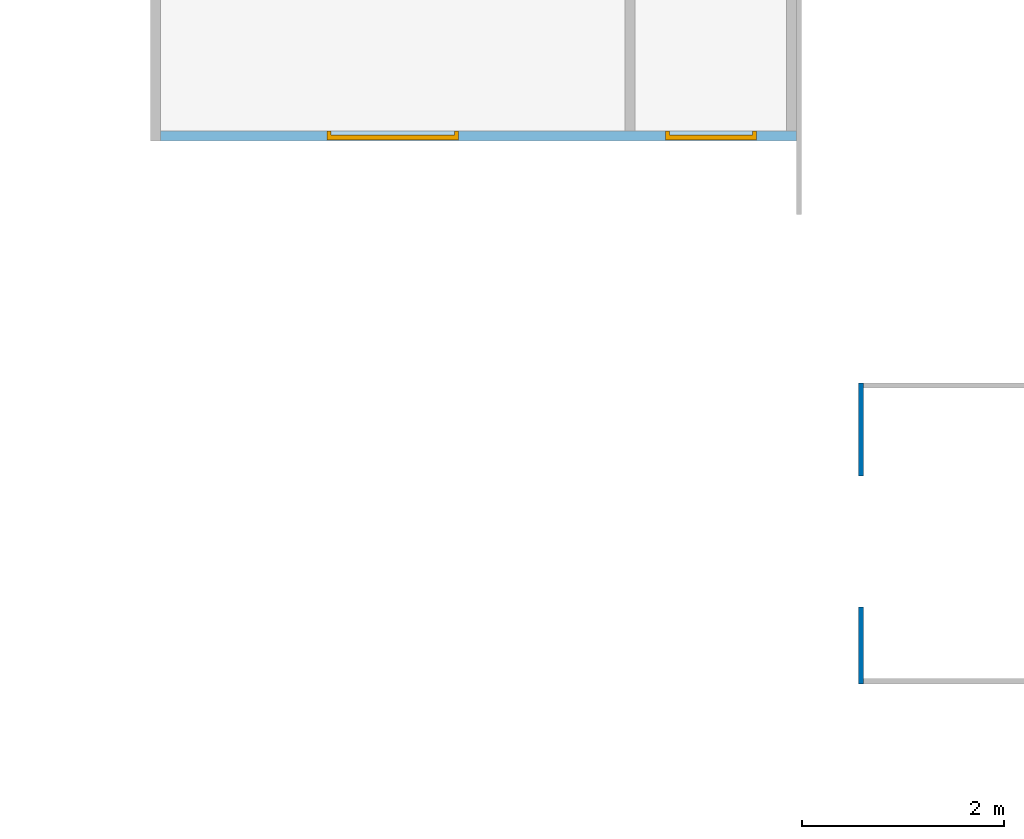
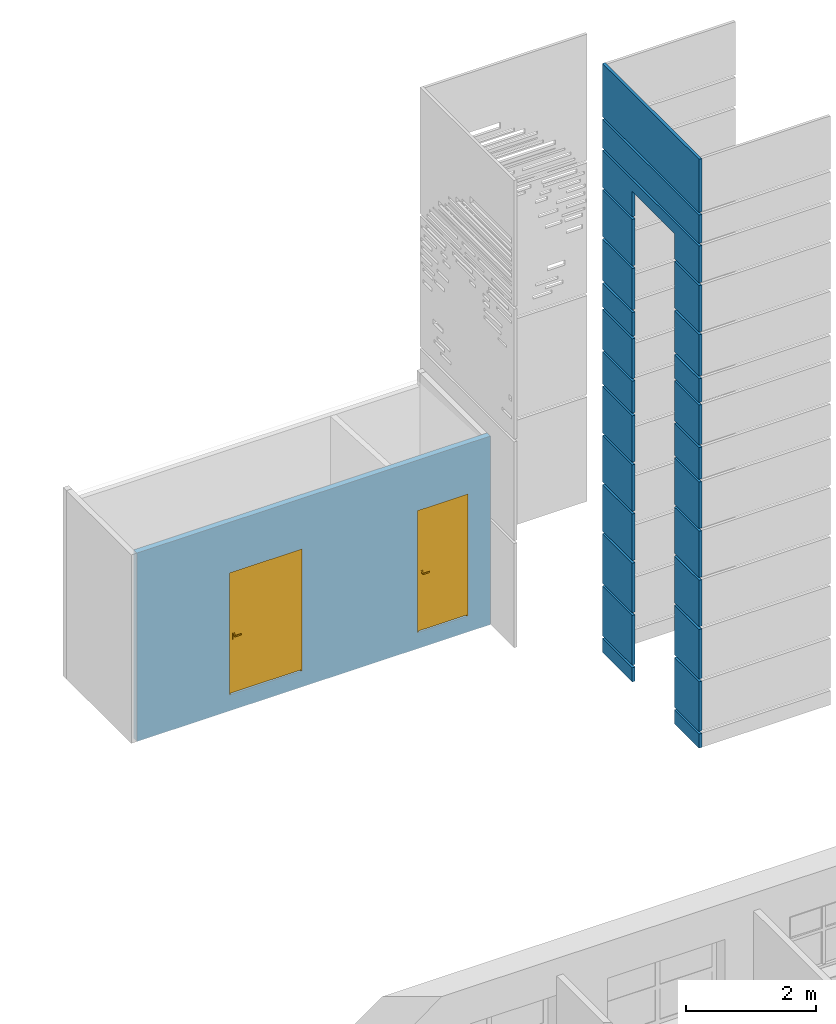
# One storey, part 39 of 49: 2 doors, 1 wall, 2 openings, plus 1 element that does not belong to this part.
"""IFC2X3 building model written with IfcOpenShell, lengths in millimetres."""

from ifc_helpers import new_model, entity, si_unit, converted_unit, derived_unit, direction, frame, frame_2d, origin, place, context, subcontext, project, spatial, rectangle, extrude, faceted_brep, source, transform, mapped, material, material_list, layer, layer_set, layer_usage, type_object, type_shapes, element, fill, save


model = new_model("IFC2X3")

# Units and contexts
model_context = context("Model", 3, precision=0.01, world=origin(), true_north=direction((6.12303176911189e-17, 1.0)))
body_context = subcontext(model_context, "Body", "Model", "MODEL_VIEW")
ifc_project = project(units=[si_unit("LENGTHUNIT", "METRE", prefix="MILLI"), si_unit("AREAUNIT", "SQUARE_METRE"), si_unit("VOLUMEUNIT", "CUBIC_METRE"), converted_unit("PLANEANGLEUNIT", "DEGREE", entity("IfcRatioMeasure", 0.0174532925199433), si_unit("PLANEANGLEUNIT", "RADIAN"), dimensions=[0, 0, 0, 0, 0, 0, 0]), si_unit("MASSUNIT", "GRAM", prefix="KILO"), derived_unit("MASSDENSITYUNIT", [(si_unit("MASSUNIT", "GRAM", prefix="KILO"), 1), (si_unit("LENGTHUNIT", "METRE"), -3)]), si_unit("TIMEUNIT", "SECOND"), si_unit("FREQUENCYUNIT", "HERTZ"), si_unit("THERMODYNAMICTEMPERATUREUNIT", "DEGREE_CELSIUS"), derived_unit("THERMALTRANSMITTANCEUNIT", [(si_unit("MASSUNIT", "GRAM", prefix="KILO"), 1), (si_unit("THERMODYNAMICTEMPERATUREUNIT", "KELVIN"), -1), (si_unit("TIMEUNIT", "SECOND"), -3)]), derived_unit("VOLUMETRICFLOWRATEUNIT", [(si_unit("LENGTHUNIT", "METRE"), 3), (si_unit("TIMEUNIT", "SECOND"), -1)]), si_unit("ELECTRICCURRENTUNIT", "AMPERE"), si_unit("ELECTRICVOLTAGEUNIT", "VOLT"), si_unit("POWERUNIT", "WATT"), si_unit("FORCEUNIT", "NEWTON", prefix="KILO"), si_unit("ILLUMINANCEUNIT", "LUX"), si_unit("LUMINOUSFLUXUNIT", "LUMEN"), si_unit("LUMINOUSINTENSITYUNIT", "CANDELA"), derived_unit("USERDEFINED", [(si_unit("MASSUNIT", "GRAM", prefix="KILO"), -1), (si_unit("LENGTHUNIT", "METRE"), -2), (si_unit("TIMEUNIT", "SECOND"), 3), (si_unit("LUMINOUSFLUXUNIT", "LUMEN"), 1)]), derived_unit("LINEARVELOCITYUNIT", [(si_unit("LENGTHUNIT", "METRE"), 1), (si_unit("TIMEUNIT", "SECOND"), -1)]), si_unit("PRESSUREUNIT", "PASCAL"), derived_unit("USERDEFINED", [(si_unit("LENGTHUNIT", "METRE"), -2), (si_unit("MASSUNIT", "GRAM", prefix="KILO"), 1), (si_unit("TIMEUNIT", "SECOND"), -2)])], contexts=[model_context])

# Site, building, storey
site_placement = place(None, frame((-151.875543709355, 2715.0, 0.0)))
site = spatial("IfcSite", under=ifc_project, at=site_placement, Name="Surface", CompositionType="ELEMENT")
building_placement = place(site_placement, origin())
building = spatial("IfcBuilding", under=site, at=building_placement, CompositionType="ELEMENT")
storey_placement = place(building_placement, origin())
storey = spatial("IfcBuildingStorey", under=building, at=storey_placement, Name="1 korrus", CompositionType="ELEMENT", Elevation=3.0969999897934e-10)

# Wall, openings, doors
ifc_material_1 = material(Name="External face timepruun h=1100mm")
ifc_layer_1 = layer(ifc_material_1, 1.0)
ifc_material_2 = material(Name="Core Mineral wool Mineral Wool h=1100mm")
ifc_layer_2 = layer(ifc_material_2, 98.0)
ifc_material_3 = material(Name="Internal face RAL 7035 h=1100mm")
ifc_layer_3 = layer(ifc_material_3, 1.0)
ifc_layer_set = layer_set([ifc_layer_1, ifc_layer_2, ifc_layer_3], Name="Basic Wall:VS-3.1_SW kergpaneel 100mm")
ifc_layer_usage = layer_usage(ifc_layer_set, "AXIS2", "POSITIVE", -50.00000000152)
wall_type_1 = type_object("IfcWallType", Name="Basic Wall:VS-3.1_SW kergpaneel 100mm", PredefinedType="STANDARD", material=ifc_layer_set)
wall_1_placement = place(storey_placement, frame((22301.6162681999, 24635.0376316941, 0.0)))
wall_1 = element("IfcWallStandardCase", 1, at=wall_1_placement, inside=storey, type_object=wall_type_1, material=ifc_layer_usage, Name="Basic Wall:VS-3.1_SW kergpaneel 100mm", ObjectType="Basic Wall:VS-3.1_SW kergpaneel 100mm", context=body_context, shape_type="SweptSolid", body=[
    extrude(rectangle(XDim=6300.00000000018, YDim=100.000000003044, at=frame_2d((3150.00000000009, -1.27897692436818e-13), x_axis=(-1.0, 0.0))), origin(), (0.0, 0.0, 1.0), 3550.0),
])
opening_1_placement = place(wall_1_placement, frame((5900.0, 50.0, 300.0)))
opening_1 = element("IfcOpeningElement", 2, at=opening_1_placement, cuts=wall_1, Name="Ühepoolsed:VU-05:1", ObjectType="Opening", context=body_context, shape_type="SweptSolid", body=[
    extrude(rectangle(XDim=2299.99999999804, YDim=900.0, at=frame_2d((1149.99999999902, 450.000000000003), x_axis=(1.0, 0.0))), frame((0.0, 0.0, 0.0), z_axis=(0.0, -1.0, 0.0), x_axis=(0.0, 0.0, 1.0)), (0.0, 0.0, 1.0), 100.00000000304),
])
opening_2_placement = place(wall_1_placement, frame((2949.99927372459, 50.0, 300.0)))
opening_2 = element("IfcOpeningElement", 3, at=opening_2_placement, cuts=wall_1, Name="Ühepoolsed:VU-06:1", ObjectType="Opening", context=body_context, shape_type="SweptSolid", body=[
    extrude(rectangle(XDim=2299.99999999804, YDim=1300.0, at=frame_2d((1149.99999999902, 650.0), x_axis=(1.0, 0.0))), frame((0.0, 0.0, 0.0), z_axis=(0.0, -1.0, 0.0), x_axis=(0.0, 0.0, 1.0)), (0.0, 0.0, 1.0), 100.00000000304),
])
ifc_material_4 = material(Name="_Alumiiniumprofiil - must")
ifc_material_5 = material(Name="Steel/Aluminium")
ifc_material_list_1 = material_list([ifc_material_4, ifc_material_5])
ifc_material_list_2 = material_list([ifc_material_4, ifc_material_5])
door_style_1 = type_object("IfcDoorStyle", Name="VU-05", ConstructionType="NOTDEFINED", OperationType="FOLDING_TO_LEFT", ParameterTakesPrecedence=False, Sizeable=False, material=ifc_material_list_2)
shared_shape_1 = source(origin(), body_context, "Body", "Brep", [
    faceted_brep([(800.0, 0.942118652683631, 1112.5), (705.0, 0.942118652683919, 1112.5), (705.0, -4.05788134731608, 1112.5), (825.0, -4.05788134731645, 1112.5), (825.0, 38.9421186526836, 1112.5), (800.0, 38.9421186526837, 1112.5), (800.0, 0.942118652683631, 1087.5), (800.0, 38.9421186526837, 1087.5), (825.0, 38.9421186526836, 1087.5), (825.0, -4.05788134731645, 1087.5), (705.0, -4.05788134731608, 1087.5), (705.0, 0.942118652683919, 1087.5)], [[[0, 1, 2, 3, 4, 5]], [[6, 7, 8, 9, 10, 11]], [[5, 7, 6, 0]], [[4, 8, 7, 5]], [[3, 9, 8, 4]], [[2, 10, 9, 3]], [[1, 11, 10, 2]], [[0, 6, 11, 1]]]),
    faceted_brep([(787.500000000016, 38.9421186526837, 1137.5), (837.500000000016, 38.9421186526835, 1137.5), (837.500000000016, 40.9421186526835, 1137.5), (787.500000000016, 40.9421186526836, 1137.5), (787.500000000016, 38.9421186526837, 1017.5), (787.500000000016, 40.9421186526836, 1017.5), (837.500000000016, 40.9421186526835, 1017.5), (837.500000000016, 38.9421186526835, 1017.5)], [[[0, 1, 2, 3]], [[4, 5, 6, 7]], [[3, 5, 4, 0]], [[2, 6, 5, 3]], [[1, 7, 6, 2]], [[0, 4, 7, 1]]]),
    faceted_brep([(800.0, 130.942118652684, 1112.5), (800.0, 92.9421186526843, 1112.5), (825.0, 92.9421186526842, 1112.5), (825.0, 135.942118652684, 1112.5), (705.0, 135.942118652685, 1112.5), (705.0, 130.942118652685, 1112.5), (800.0, 130.942118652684, 1087.5), (705.0, 130.942118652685, 1087.5), (705.0, 135.942118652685, 1087.5), (825.0, 135.942118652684, 1087.5), (825.0, 92.9421186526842, 1087.5), (800.0, 92.9421186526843, 1087.5)], [[[0, 1, 2, 3, 4, 5]], [[6, 7, 8, 9, 10, 11]], [[1, 0, 6, 11]], [[2, 1, 11, 10]], [[3, 2, 10, 9]], [[4, 3, 9, 8]], [[5, 4, 8, 7]], [[0, 5, 7, 6]]]),
    faceted_brep([(787.500000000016, 92.9421186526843, 1137.5), (787.500000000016, 90.9421186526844, 1137.5), (837.500000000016, 90.9421186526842, 1137.5), (837.500000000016, 92.9421186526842, 1137.5), (787.500000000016, 92.9421186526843, 1017.5), (837.500000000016, 92.9421186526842, 1017.5), (837.500000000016, 90.9421186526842, 1017.5), (787.500000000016, 90.9421186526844, 1017.5)], [[[0, 1, 2, 3]], [[4, 5, 6, 7]], [[1, 0, 4, 7]], [[2, 1, 7, 6]], [[3, 2, 6, 5]], [[0, 3, 5, 4]]]),
    faceted_brep([(0.0, 0.942118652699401, 0.0), (0.0, 90.9421186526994, 0.0), (25.0, 90.9421186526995, 0.0), (25.0, 40.9421186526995, 0.0), (40.0, 40.9421186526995, 0.0), (40.0, 0.942118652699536, 0.0), (40.0, 0.942118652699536, 2260.0), (860.0, 0.942118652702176, 2260.0), (860.0, 0.942118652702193, 0.0), (900.0, 0.942118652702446, 0.0), (900.0, 0.942118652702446, 2300.0), (0.0, 0.942118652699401, 2300.0), (40.0, 40.9421186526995, 2260.0), (25.0, 40.9421186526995, 2275.0), (875.0, 40.9421186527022, 2275.0), (875.0, 40.9421186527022, 0.0), (860.0, 40.9421186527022, 0.0), (860.0, 40.9421186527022, 2260.0), (25.0, 90.9421186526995, 2275.0), (0.0, 90.9421186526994, 2300.0), (900.0, 90.9421186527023, 2300.0), (900.0, 90.9421186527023, 0.0), (875.0, 90.9421186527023, 0.0), (875.0, 90.9421186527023, 2275.0)], [[[0, 1, 2, 3, 4, 5]], [[5, 6, 7, 8, 9, 10, 11, 0]], [[4, 12, 6, 5]], [[3, 13, 14, 15, 16, 17, 12, 4]], [[2, 18, 13, 3]], [[1, 19, 20, 21, 22, 23, 18, 2]], [[0, 11, 19, 1]], [[9, 21, 20, 10]], [[8, 16, 15, 22, 21, 9]], [[7, 17, 16, 8]], [[14, 23, 22, 15]], [[6, 12, 17, 7]], [[13, 18, 23, 14]], [[10, 20, 19, 11]]]),
    faceted_brep([(875.0, 40.9421186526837, 2275.0), (25.0, 40.9421186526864, 2275.0), (25.0, 40.9421186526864, 20.0), (875.0, 40.9421186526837, 20.0), (875.0, 90.9421186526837, 2275.0), (875.0, 90.9421186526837, 20.0), (25.0, 90.9421186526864, 20.0), (25.0, 90.9421186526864, 2275.0)], [[[0, 1, 2, 3]], [[4, 5, 6, 7]], [[3, 5, 4, 0]], [[2, 6, 5, 3]], [[1, 7, 6, 2]], [[0, 4, 7, 1]]]),
])
type_shapes(door_style_1, [shared_shape_1])
door_1_placement = place(opening_1_placement, frame((0.0, 1.50612322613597e-09, 0.0), z_axis=(0.0, 0.0, 1.0), x_axis=(-1.0, 0.0, 0.0)))
door_1 = element("IfcDoor", 4, at=door_1_placement, inside=storey, type_object=door_style_1, material=ifc_material_list_1, Name="Ühepoolsed:VU-05", ObjectType="VU-05", OverallHeight=2299.99999999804, OverallWidth=900.000000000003, context=body_context, shape_type="MappedRepresentation", body=[
    mapped(shared_shape_1, transform((0.0, 0.0, 0.0), scale=1.0)),
])
fill(opening_1, door_1)
ifc_material_list_3 = material_list([ifc_material_4, ifc_material_5])
ifc_material_list_4 = material_list([ifc_material_4, ifc_material_5])
door_style_2 = type_object("IfcDoorStyle", Name="VU-06", ConstructionType="NOTDEFINED", OperationType="FOLDING_TO_LEFT", ParameterTakesPrecedence=False, Sizeable=False, material=ifc_material_list_4)
shared_shape_2 = source(origin(), body_context, "Body", "Brep", [
    faceted_brep([(1200.0, 0.942118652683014, 1112.5), (1105.0, 0.942118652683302, 1112.5), (1105.0, -4.0578813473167, 1112.5), (1225.0, -4.05788134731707, 1112.5), (1225.0, 38.942118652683, 1112.5), (1200.0, 38.942118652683, 1112.5), (1200.0, 0.942118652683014, 1087.5), (1200.0, 38.942118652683, 1087.5), (1225.0, 38.942118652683, 1087.5), (1225.0, -4.05788134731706, 1087.5), (1105.0, -4.0578813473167, 1087.5), (1105.0, 0.942118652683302, 1087.5)], [[[0, 1, 2, 3, 4, 5]], [[6, 7, 8, 9, 10, 11]], [[5, 7, 6, 0]], [[4, 8, 7, 5]], [[3, 9, 8, 4]], [[2, 10, 9, 3]], [[1, 11, 10, 2]], [[0, 6, 11, 1]]]),
    faceted_brep([(1187.50000000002, 38.9421186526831, 1137.5), (1237.50000000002, 38.9421186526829, 1137.5), (1237.50000000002, 40.9421186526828, 1137.5), (1187.50000000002, 40.942118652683, 1137.5), (1187.50000000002, 38.9421186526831, 1017.5), (1187.50000000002, 40.942118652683, 1017.5), (1237.50000000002, 40.9421186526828, 1017.5), (1237.50000000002, 38.9421186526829, 1017.5)], [[[0, 1, 2, 3]], [[4, 5, 6, 7]], [[3, 5, 4, 0]], [[2, 6, 5, 3]], [[1, 7, 6, 2]], [[0, 4, 7, 1]]]),
    faceted_brep([(1200.0, 130.942118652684, 1112.5), (1200.0, 92.9421186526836, 1112.5), (1225.0, 92.9421186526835, 1112.5), (1225.0, 135.942118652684, 1112.5), (1105.0, 135.942118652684, 1112.5), (1105.0, 130.942118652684, 1112.5), (1200.0, 130.942118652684, 1087.5), (1105.0, 130.942118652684, 1087.5), (1105.0, 135.942118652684, 1087.5), (1225.0, 135.942118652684, 1087.5), (1225.0, 92.9421186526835, 1087.5), (1200.0, 92.9421186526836, 1087.5)], [[[0, 1, 2, 3, 4, 5]], [[6, 7, 8, 9, 10, 11]], [[1, 0, 6, 11]], [[2, 1, 11, 10]], [[3, 2, 10, 9]], [[4, 3, 9, 8]], [[5, 4, 8, 7]], [[0, 5, 7, 6]]]),
    faceted_brep([(1187.50000000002, 92.9421186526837, 1137.5), (1187.50000000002, 90.9421186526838, 1137.5), (1237.50000000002, 90.9421186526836, 1137.5), (1237.50000000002, 92.9421186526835, 1137.5), (1187.50000000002, 92.9421186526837, 1017.5), (1237.50000000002, 92.9421186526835, 1017.5), (1237.50000000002, 90.9421186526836, 1017.5), (1187.50000000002, 90.9421186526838, 1017.5)], [[[0, 1, 2, 3]], [[4, 5, 6, 7]], [[1, 0, 4, 7]], [[2, 1, 7, 6]], [[3, 2, 6, 5]], [[0, 3, 5, 4]]]),
    faceted_brep([(0.0, 0.942118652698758, 0.0), (0.0, 90.9421186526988, 0.0), (25.0, 90.9421186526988, 0.0), (25.0, 40.9421186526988, 0.0), (40.0, 40.9421186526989, 0.0), (40.0, 0.942118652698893, 0.0), (40.0, 0.942118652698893, 2260.0), (1260.0, 0.942118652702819, 2260.0), (1260.0, 0.942118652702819, 0.0), (1300.0, 0.942118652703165, 0.0), (1300.0, 0.942118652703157, 2300.0), (0.0, 0.942118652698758, 2300.0), (40.0, 40.9421186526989, 2260.0), (25.0, 40.9421186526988, 2275.0), (1275.0, 40.9421186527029, 2275.0), (1275.0, 40.9421186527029, 0.0), (1260.0, 40.9421186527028, 0.0), (1260.0, 40.9421186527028, 2260.0), (25.0, 90.9421186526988, 2275.0), (0.0, 90.9421186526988, 2300.0), (1300.0, 90.942118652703, 2300.0), (1300.0, 90.942118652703, 0.0), (1275.0, 90.9421186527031, 0.0), (1275.0, 90.9421186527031, 2275.0)], [[[0, 1, 2, 3, 4, 5]], [[5, 6, 7, 8, 9, 10, 11, 0]], [[4, 12, 6, 5]], [[3, 13, 14, 15, 16, 17, 12, 4]], [[2, 18, 13, 3]], [[1, 19, 20, 21, 22, 23, 18, 2]], [[0, 11, 19, 1]], [[9, 21, 20, 10]], [[8, 16, 15, 22, 21, 9]], [[7, 17, 16, 8]], [[14, 23, 22, 15]], [[6, 12, 17, 7]], [[13, 18, 23, 14]], [[10, 20, 19, 11]]]),
    faceted_brep([(1275.0, 40.9421186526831, 2275.0), (25.0, 40.942118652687, 2275.0), (25.0, 40.942118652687, 20.0), (1275.0, 40.9421186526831, 20.0), (1275.0, 90.9421186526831, 2275.0), (1275.0, 90.9421186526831, 20.0), (25.0, 90.942118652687, 20.0), (25.0, 90.942118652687, 2275.0)], [[[0, 1, 2, 3]], [[4, 5, 6, 7]], [[3, 5, 4, 0]], [[2, 6, 5, 3]], [[1, 7, 6, 2]], [[0, 4, 7, 1]]]),
])
type_shapes(door_style_2, [shared_shape_2])
door_2_placement = place(opening_2_placement, frame((0.0, 1.50976120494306e-09, 0.0), z_axis=(0.0, 0.0, 1.0), x_axis=(-1.0, 0.0, 0.0)))
door_2 = element("IfcDoor", 5, at=door_2_placement, inside=storey, type_object=door_style_2, material=ifc_material_list_3, Name="Ühepoolsed:VU-06", ObjectType="VU-06", OverallHeight=2299.99999999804, OverallWidth=1300.0, context=body_context, shape_type="MappedRepresentation", body=[
    mapped(shared_shape_2, transform((0.0, 0.0, 0.0), scale=1.0)),
])
fill(opening_2, door_2)

# Wall
wall_type_2 = type_object("IfcWallType", Name="fassaad15:fassaad 2", PredefinedType="NOTDEFINED", material=ifc_material_5)
wall_2_placement = place(storey_placement, frame((29212.6177671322, 19210.0, 714.731620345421), z_axis=(0.0, 0.0, 1.0), x_axis=(0.0, 1.0, 0.0)))
element("IfcWall", 6, at=wall_2_placement, inside=storey, type_object=wall_type_2, material=ifc_material_5, Name="fassaad15:fassaad 2", ObjectType="fassaad15:fassaad 2", context=body_context, shape_type="Brep", body=[
    faceted_brep([(2980.0, 0.0, 11090.2683796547), (2980.0, 0.0, 10090.2683796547), (0.0, 0.0, 10090.2683796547), (0.0, 0.0, 11090.2683796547), (2980.0, -50.0, 11090.2683796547), (2980.0, -50.0, 10090.2683796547), (0.0, -50.0, 11090.2683796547), (0.0, -50.0, 10090.2683796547)], [[[0, 1, 2, 3]], [[1, 0, 4, 5]], [[0, 3, 6, 4]], [[2, 1, 5, 7]], [[3, 2, 7, 6]], [[4, 6, 7, 5]]]),
    faceted_brep([(2980.0, 0.0, 315.268379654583), (2980.0, 0.0, 1250.26837965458), (2980.0, -50.0, 1250.26837965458), (2980.0, -50.0, 315.268379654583), (2060.0, 0.0, 315.268379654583), (2060.0, -50.0, 315.268379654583), (2060.0, 0.0, 1250.26837965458), (2060.0, -50.0, 1250.26837965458)], [[[0, 1, 2, 3]], [[4, 0, 3, 5]], [[6, 4, 5, 7]], [[1, 6, 7, 2]], [[7, 5, 3, 2]], [[6, 1, 0, 4]]]),
    faceted_brep([(2980.0, 0.0, 265.268379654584), (2060.0, 0.0, 265.268379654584), (2060.0, -50.0, 265.268379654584), (2980.0, -50.0, 265.268379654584), (2980.0, 0.0, 0.0), (2980.0, -50.0, 0.0), (2060.0, 0.0, 0.0), (2060.0, -50.0, 0.0)], [[[0, 1, 2, 3]], [[4, 0, 3, 5]], [[6, 4, 5, 7]], [[1, 6, 7, 2]], [[2, 7, 5, 3]], [[1, 0, 4, 6]]]),
    faceted_brep([(2980.0, 0.0, 9505.26839965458), (2980.0, 0.0, 10040.2683796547), (2980.0, -50.0, 10040.2683796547), (2980.0, -50.0, 9505.26839965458), (0.0, 0.0, 10040.2683796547), (0.0, -50.0, 10040.2683796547), (0.0, 0.0, 9505.26839965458), (0.0, -50.0, 9505.26839965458)], [[[0, 1, 2, 3]], [[1, 4, 5, 2]], [[6, 0, 3, 7]], [[4, 6, 7, 5]], [[2, 5, 7, 3]], [[1, 0, 6, 4]]]),
    faceted_brep([(2980.0, 0.0, 9455.26839965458), (0.0, 0.0, 9455.26839965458), (0.0, -50.0, 9455.26839965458), (2980.0, -50.0, 9455.26839965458), (2980.0, 0.0, 8760.26837965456), (2980.0, -50.0, 8760.26837965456), (2060.0, 0.0, 8760.26837965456), (2060.0, -50.0, 8760.26837965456), (2060.0, 0.0, 9235.26839965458), (2060.0, -50.0, 9235.26839965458), (760.0, 0.0, 8760.26837965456), (760.0, 0.0, 9235.26839965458), (760.0, -50.0, 9235.26839965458), (760.0, -50.0, 8760.26837965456), (0.0, 0.0, 8760.26837965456), (0.0, -50.0, 8760.26837965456)], [[[0, 1, 2, 3]], [[4, 0, 3, 5]], [[6, 4, 5, 7]], [[8, 6, 7, 9]], [[10, 11, 12, 13]], [[11, 8, 9, 12]], [[1, 14, 15, 2]], [[14, 10, 13, 15]], [[2, 15, 13, 12, 9, 7, 5, 3]], [[1, 0, 4, 6, 8, 11, 10, 14]]]),
    faceted_brep([(2980.0, 0.0, 8710.26837965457), (2060.0, 0.0, 8710.26837965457), (2060.0, -50.0, 8710.26837965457), (2980.0, -50.0, 8710.26837965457), (2980.0, 0.0, 7835.26837965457), (2980.0, -50.0, 7835.26837965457), (2060.0, 0.0, 7835.26837965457), (2060.0, -50.0, 7835.26837965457)], [[[0, 1, 2, 3]], [[4, 0, 3, 5]], [[6, 4, 5, 7]], [[1, 6, 7, 2]], [[2, 7, 5, 3]], [[1, 0, 4, 6]]]),
    faceted_brep([(2980.0, 0.0, 7785.26837965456), (2060.0, 0.0, 7785.26837965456), (2060.0, -50.0, 7785.26837965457), (2980.0, -50.0, 7785.26837965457), (2980.0, 0.0, 7005.26837965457), (2980.0, -50.0, 7005.26837965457), (2060.0, 0.0, 7005.26837965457), (2060.0, -50.0, 7005.26837965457)], [[[0, 1, 2, 3]], [[4, 0, 3, 5]], [[6, 4, 5, 7]], [[1, 6, 7, 2]], [[2, 7, 5, 3]], [[1, 0, 4, 6]]]),
    faceted_brep([(2980.0, 0.0, 6955.26837965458), (2060.0, 0.0, 6955.26837965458), (2060.0, -50.0, 6955.26837965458), (2980.0, -50.0, 6955.26837965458), (2980.0, 0.0, 6510.26837965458), (2980.0, -50.0, 6510.26837965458), (2060.0, 0.0, 6510.26837965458), (2060.0, -50.0, 6510.26837965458)], [[[0, 1, 2, 3]], [[4, 0, 3, 5]], [[6, 4, 5, 7]], [[1, 6, 7, 2]], [[2, 7, 5, 3]], [[1, 0, 4, 6]]]),
    faceted_brep([(2980.0, 0.0, 6460.26837965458), (2060.0, 0.0, 6460.26837965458), (2060.0, -50.0, 6460.26837965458), (2980.0, -50.0, 6460.26837965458), (2980.0, 0.0, 5710.26839965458), (2980.0, -50.0, 5710.26839965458), (2060.0, 0.0, 5710.26839965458), (2060.0, -50.0, 5710.26839965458)], [[[0, 1, 2, 3]], [[4, 0, 3, 5]], [[6, 4, 5, 7]], [[1, 6, 7, 2]], [[2, 7, 5, 3]], [[1, 0, 4, 6]]]),
    faceted_brep([(2980.0, 0.0, 5660.26839965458), (2060.0, 0.0, 5660.26839965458), (2060.0, -50.0, 5660.26839965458), (2980.0, -50.0, 5660.26839965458), (2980.0, 0.0, 5060.26837965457), (2980.0, -50.0, 5060.26837965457), (2060.0, 0.0, 5060.26837965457), (2060.0, -50.0, 5060.26837965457)], [[[0, 1, 2, 3]], [[4, 0, 3, 5]], [[6, 4, 5, 7]], [[1, 6, 7, 2]], [[2, 7, 5, 3]], [[1, 0, 4, 6]]]),
    faceted_brep([(2980.0, 0.0, 5010.26837965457), (2060.0, 0.0, 5010.26837965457), (2060.0, -50.0, 5010.26837965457), (2980.0, -50.0, 5010.26837965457), (2980.0, 0.0, 4135.26837965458), (2980.0, -50.0, 4135.26837965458), (2060.0, 0.0, 4135.26837965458), (2060.0, -50.0, 4135.26837965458)], [[[0, 1, 2, 3]], [[4, 0, 3, 5]], [[6, 4, 5, 7]], [[1, 6, 7, 2]], [[2, 7, 5, 3]], [[1, 0, 4, 6]]]),
    faceted_brep([(2980.0, 0.0, 4085.26837965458), (2060.0, 0.0, 4085.26837965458), (2060.0, -50.0, 4085.26837965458), (2980.0, -50.0, 4085.26837965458), (2980.0, 0.0, 3210.26837965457), (2980.0, -50.0, 3210.26837965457), (2060.0, 0.0, 3210.26837965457), (2060.0, -50.0, 3210.26837965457)], [[[0, 1, 2, 3]], [[4, 0, 3, 5]], [[6, 4, 5, 7]], [[1, 6, 7, 2]], [[2, 7, 5, 3]], [[1, 0, 4, 6]]]),
    faceted_brep([(2980.0, 0.0, 3160.26837965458), (2060.0, 0.0, 3160.26837965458), (2060.0, -50.0, 3160.26837965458), (2980.0, -50.0, 3160.26837965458), (2980.0, 0.0, 2285.26837965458), (2980.0, -50.0, 2285.26837965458), (2060.0, 0.0, 2285.26837965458), (2060.0, -50.0, 2285.26837965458)], [[[0, 1, 2, 3]], [[4, 0, 3, 5]], [[6, 4, 5, 7]], [[1, 6, 7, 2]], [[2, 7, 5, 3]], [[1, 0, 4, 6]]]),
    faceted_brep([(2980.0, 0.0, 2235.26837965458), (2060.0, 0.0, 2235.26837965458), (2060.0, -50.0, 2235.26837965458), (2980.0, -50.0, 2235.26837965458), (2980.0, 0.0, 1300.26837965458), (2980.0, -50.0, 1300.26837965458), (2060.0, 0.0, 1300.26837965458), (2060.0, -50.0, 1300.26837965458)], [[[0, 1, 2, 3]], [[4, 0, 3, 5]], [[1, 6, 7, 2]], [[6, 4, 5, 7]], [[2, 7, 5, 3]], [[1, 0, 4, 6]]]),
    faceted_brep([(760.0, 0.0, 315.268379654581), (760.0, 0.0, 1250.26837965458), (760.0, -50.0, 1250.26837965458), (760.0, -50.0, 315.268379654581), (0.0, 0.0, 315.268379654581), (0.0, -50.0, 315.268379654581), (0.0, 0.0, 1250.26837965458), (0.0, -50.0, 1250.26837965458)], [[[0, 1, 2, 3]], [[4, 0, 3, 5]], [[6, 4, 5, 7]], [[1, 6, 7, 2]], [[7, 5, 3, 2]], [[6, 1, 0, 4]]]),
    faceted_brep([(760.0, 0.0, 265.268379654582), (0.0, 0.0, 265.268379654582), (0.0, -50.0, 265.268379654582), (760.0, -50.0, 265.268379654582), (760.0, 0.0, 0.0), (760.0, -50.0, 0.0), (0.0, 0.0, 0.0), (0.0, -50.0, 0.0)], [[[0, 1, 2, 3]], [[4, 0, 3, 5]], [[6, 4, 5, 7]], [[1, 6, 7, 2]], [[2, 7, 5, 3]], [[1, 0, 4, 6]]]),
    faceted_brep([(760.0, 0.0, 8710.26837965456), (0.0, 0.0, 8710.26837965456), (0.0, -50.0, 8710.26837965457), (760.0, -50.0, 8710.26837965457), (760.0, 0.0, 7835.26837965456), (760.0, -50.0, 7835.26837965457), (0.0, 0.0, 7835.26837965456), (0.0, -50.0, 7835.26837965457)], [[[0, 1, 2, 3]], [[4, 0, 3, 5]], [[6, 4, 5, 7]], [[1, 6, 7, 2]], [[2, 7, 5, 3]], [[1, 0, 4, 6]]]),
    faceted_brep([(760.0, 0.0, 7785.26837965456), (0.0, 0.0, 7785.26837965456), (0.0, -50.0, 7785.26837965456), (760.0, -50.0, 7785.26837965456), (760.0, 0.0, 7005.26837965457), (760.0, -50.0, 7005.26837965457), (0.0, 0.0, 7005.26837965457), (0.0, -50.0, 7005.26837965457)], [[[0, 1, 2, 3]], [[4, 0, 3, 5]], [[6, 4, 5, 7]], [[1, 6, 7, 2]], [[2, 7, 5, 3]], [[1, 0, 4, 6]]]),
    faceted_brep([(760.0, 0.0, 6955.26837965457), (0.0, 0.0, 6955.26837965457), (0.0, -50.0, 6955.26837965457), (760.0, -50.0, 6955.26837965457), (760.0, 0.0, 6510.26837965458), (760.0, -50.0, 6510.26837965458), (0.0, 0.0, 6510.26837965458), (0.0, -50.0, 6510.26837965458)], [[[0, 1, 2, 3]], [[4, 0, 3, 5]], [[6, 4, 5, 7]], [[1, 6, 7, 2]], [[2, 7, 5, 3]], [[1, 0, 4, 6]]]),
    faceted_brep([(760.0, 0.0, 6460.26837965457), (0.0, 0.0, 6460.26837965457), (0.0, -50.0, 6460.26837965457), (760.0, -50.0, 6460.26837965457), (760.0, 0.0, 5710.26839965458), (760.0, -50.0, 5710.26839965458), (0.0, 0.0, 5710.26839965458), (0.0, -50.0, 5710.26839965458)], [[[0, 1, 2, 3]], [[4, 0, 3, 5]], [[6, 4, 5, 7]], [[1, 6, 7, 2]], [[2, 7, 5, 3]], [[1, 0, 4, 6]]]),
    faceted_brep([(760.0, 0.0, 5660.26839965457), (0.0, 0.0, 5660.26839965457), (0.0, -50.0, 5660.26839965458), (760.0, -50.0, 5660.26839965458), (760.0, 0.0, 5060.26837965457), (760.0, -50.0, 5060.26837965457), (0.0, 0.0, 5060.26837965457), (0.0, -50.0, 5060.26837965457)], [[[0, 1, 2, 3]], [[4, 0, 3, 5]], [[6, 4, 5, 7]], [[1, 6, 7, 2]], [[2, 7, 5, 3]], [[1, 0, 4, 6]]]),
    faceted_brep([(760.0, 0.0, 5010.26837965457), (0.0, 0.0, 5010.26837965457), (0.0, -50.0, 5010.26837965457), (760.0, -50.0, 5010.26837965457), (760.0, 0.0, 4135.26837965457), (760.0, -50.0, 4135.26837965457), (0.0, 0.0, 4135.26837965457), (0.0, -50.0, 4135.26837965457)], [[[0, 1, 2, 3]], [[4, 0, 3, 5]], [[6, 4, 5, 7]], [[1, 6, 7, 2]], [[2, 7, 5, 3]], [[1, 0, 4, 6]]]),
    faceted_brep([(760.0, 0.0, 4085.26837965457), (0.0, 0.0, 4085.26837965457), (0.0, -50.0, 4085.26837965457), (760.0, -50.0, 4085.26837965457), (760.0, 0.0, 3210.26837965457), (760.0, -50.0, 3210.26837965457), (0.0, 0.0, 3210.26837965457), (0.0, -50.0, 3210.26837965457)], [[[0, 1, 2, 3]], [[4, 0, 3, 5]], [[6, 4, 5, 7]], [[1, 6, 7, 2]], [[2, 7, 5, 3]], [[1, 0, 4, 6]]]),
    faceted_brep([(760.0, 0.0, 3160.26837965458), (0.0, 0.0, 3160.26837965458), (0.0, -50.0, 3160.26837965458), (760.0, -50.0, 3160.26837965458), (760.0, 0.0, 2285.26837965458), (760.0, -50.0, 2285.26837965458), (0.0, 0.0, 2285.26837965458), (0.0, -50.0, 2285.26837965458)], [[[0, 1, 2, 3]], [[4, 0, 3, 5]], [[6, 4, 5, 7]], [[1, 6, 7, 2]], [[2, 7, 5, 3]], [[1, 0, 4, 6]]]),
    faceted_brep([(760.0, 0.0, 2235.26837965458), (0.0, 0.0, 2235.26837965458), (0.0, -50.0, 2235.26837965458), (760.0, -50.0, 2235.26837965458), (760.0, 0.0, 1300.26837965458), (760.0, -50.0, 1300.26837965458), (0.0, 0.0, 1300.26837965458), (0.0, -50.0, 1300.26837965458)], [[[0, 1, 2, 3]], [[4, 0, 3, 5]], [[1, 6, 7, 2]], [[6, 4, 5, 7]], [[2, 7, 5, 3]], [[1, 0, 4, 6]]]),
])

save(model, "model.ifc")
